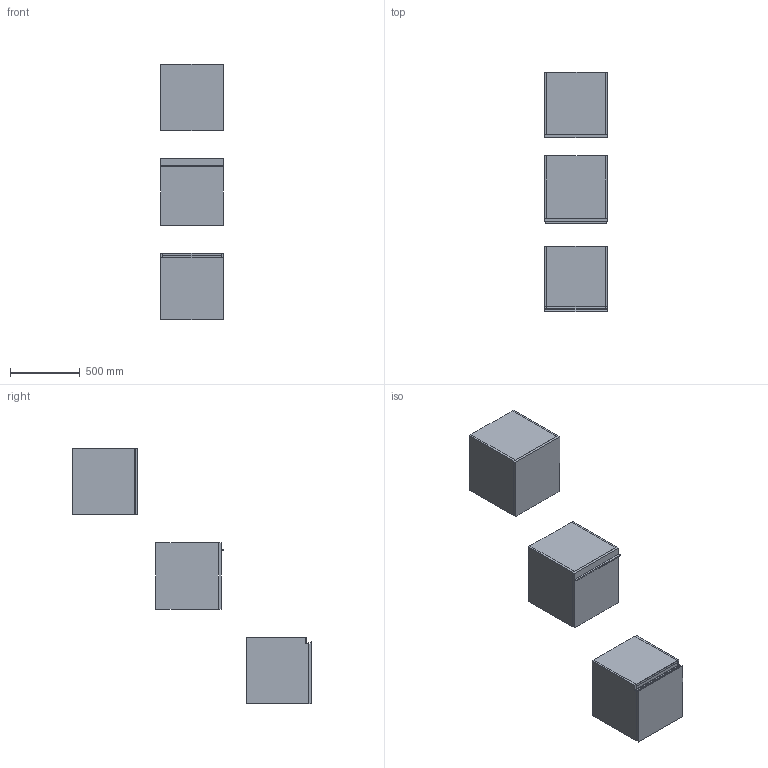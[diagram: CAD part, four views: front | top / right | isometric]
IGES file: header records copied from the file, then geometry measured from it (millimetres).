
Start section: Data from Parasolid IGES Translator 19.0.9, Copyright(c) 2006 Siemens PL M Software. All Rights Reserved.
Global section: file name: noorth-SI-H 48 D 47 W 45_8503.igs; native system: By Siemens PLM Incorporated; preprocessor: XPlus GENERIC/IGES 19.0.9; author: Noname; organization: Noname; date: 20200601.110932; units: metre
Bounding box: 450.01 x 1719.1 x 1840 mm (x, y, z)
Volume: 52140569.7 mm3; surface area: 7737110.4 mm2
Topology: 20 solids, 20 shells, 178 faces, 382 edges, 234 vertices
Faces by surface type: plane 134, extrusion 16, bspline 16, cylinder 12
